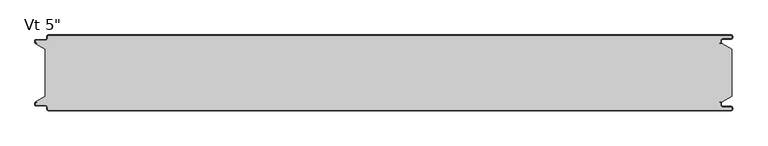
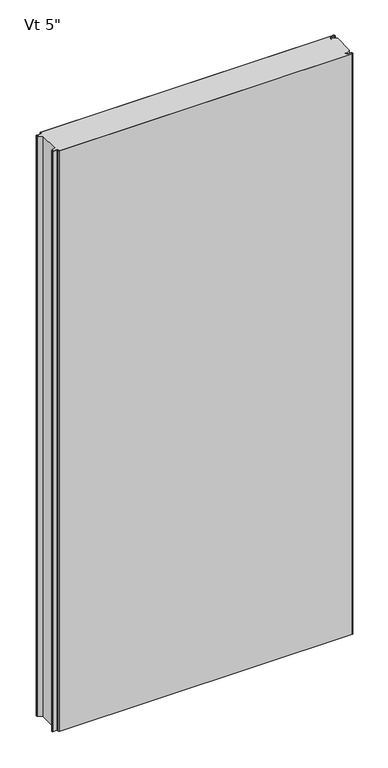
"""IFC4 building model written with IfcOpenShell, lengths in millimetres: plate geometry."""

from ifc_helpers import new_model, si_unit, frame, origin, place, context, project, spatial, polyline, circle_curve, source, transform, mapped, element, save
from ifc_brep_helpers import plane_surface, cylinder_surface, revolved_surface, advanced_brep


def plate_c1554952(model_context):
    return source(origin(), model_context, "Body", "AdvancedBrep", [
        advanced_brep(
        [(-572.4125501, -124.0227194, 2400.0), (-570.4352761, -125.9999935, 2400.0), (574.5475652, -126.0, 2400.0), (576.5248337, -124.0227315, 2400.0), (576.5248337, -122.9806329, 2400.0), (574.5475652, -121.0033643, 2400.0), (560.3591802, -121.0033643, 2400.0), (557.7713036, -118.4154878, 2400.0), (557.7713036, -114.0950697, 2400.0), (557.1628365, -113.5060762, 2400.0), (554.7857432, -113.5060762, 2400.0), (554.7857432, -112.5066023, 2400.0), (560.2280123, -112.5066023, 2400.0), (576.2625, -103.2490865, 2400.0), (576.2625, -23.7509179, 2400.0), (560.2280123, -14.4933977, 2400.0), (554.7857432, -14.4933977, 2400.0), (554.7857432, -13.4939238, 2400.0), (557.1628365, -13.4939238, 2400.0), (557.7713036, -12.9049303, 2400.0), (557.7713036, -8.5845122, 2400.0), (560.3591802, -5.9966357, 2400.0), (574.5475652, -5.9966357, 2400.0), (576.5248337, -4.0193671, 2400.0), (576.5248337, -2.9772685, 2400.0), (574.5475652, -1.0, 2400.0), (-570.4352761, -1.0, 2400.0), (-572.4125501, -2.9772806, 2400.0), (-572.4125501, -5.2691705, 2400.0), (-576.3898173, -9.2464377, 2400.0), (-591.9862417, -9.2464377, 2400.0), (-592.5741186, -9.8343146, 2400.0), (-592.5741186, -12.9058635, 2400.0), (-591.986242, -13.4937402, 2400.0), (-589.6312064, -13.4937402, 2400.0), (-589.6312064, -14.4937402, 2400.0), (-591.9207851, -14.4937402, 2400.0), (-576.2625, -23.7509135, 2400.0), (-576.2625, -103.2490865, 2400.0), (-591.9207851, -112.5062598, 2400.0), (-589.6312064, -112.5062598, 2400.0), (-589.6312064, -113.5062598, 2400.0), (-591.986242, -113.5062598, 2400.0), (-592.5741186, -114.0941365, 2400.0), (-592.5741186, -117.1656854, 2400.0), (-591.9862417, -117.7535623, 2400.0), (-576.3898173, -117.7535623, 2400.0), (-572.4125501, -121.7308295, 2400.0), (-572.4125501, -124.0227194, 0.0), (-572.4125501, -121.7308295, 0.0), (-576.3898173, -117.7535623, 0.0), (-591.9862417, -117.7535623, 0.0), (-592.5741186, -117.1656854, 0.0), (-592.5741186, -114.0941365, 0.0), (-591.986242, -113.5062598, 0.0), (-589.6312064, -113.5062598, 0.0), (-589.6312064, -112.5062598, 0.0), (-591.9207851, -112.5062598, 0.0), (-576.2625, -103.2490865, 0.0), (-576.2625, -23.7509179, 0.0), (-591.9207851, -14.4937402, 0.0), (-589.6312064, -14.4937402, 0.0), (-589.6312064, -13.4937402, 0.0), (-591.986242, -13.4937402, 0.0), (-592.5741186, -12.9058635, 0.0), (-592.5741186, -9.8343146, 0.0), (-591.9862417, -9.2464377, 0.0), (-576.3898173, -9.2464377, 0.0), (-572.4125501, -5.2691705, 0.0), (-572.4125501, -2.9772806, 0.0), (-570.4352761, -1.0000065, 0.0), (574.5475652, -1.0, 0.0), (576.5248337, -2.9772685, 0.0), (576.5248337, -4.0193671, 0.0), (574.5475652, -5.9966357, 0.0), (560.3591802, -5.9966357, 0.0), (557.7713036, -8.5845122, 0.0), (557.7713036, -12.9049303, 0.0), (557.1628365, -13.4939238, 0.0), (554.7857432, -13.4939238, 0.0), (554.7857432, -14.4933977, 0.0), (560.2280123, -14.4933977, 0.0), (576.2625, -23.7509135, 0.0), (576.2625, -103.2490865, 0.0), (560.2280123, -112.5066023, 0.0), (554.7857432, -112.5066023, 0.0), (554.7857432, -113.5060762, 0.0), (557.1628365, -113.5060762, 0.0), (557.7713036, -114.0950697, 0.0), (557.7713036, -118.4154878, 0.0), (560.3591802, -121.0033643, 0.0), (574.5475652, -121.0033643, 0.0), (576.5248337, -122.9806329, 0.0), (576.5248337, -124.0227315, 0.0), (574.5475652, -126.0, 0.0), (-570.4352761, -126.0, 0.0)],
        [
            (0, 1, circle_curve(frame((-570.4352761, -124.0227194, 2400.0), z_axis=(0.0, 0.0, 1.0), x_axis=(-1.0, 0.0, 0.0)), 1.977274)),
            (1, 2),
            (2, 3, circle_curve(frame((574.5475652, -124.0227315, 2400.0), z_axis=(0.0, 0.0, 1.0), x_axis=(-1.0, 0.0, 0.0)), 1.9772685)),
            (3, 4),
            (4, 5, circle_curve(frame((574.5475652, -122.9806329, 2400.0), z_axis=(0.0, 0.0, 1.0), x_axis=(-1.0, 0.0, 0.0)), 1.9772685)),
            (5, 6),
            (6, 7, circle_curve(frame((560.3591802, -118.4154878, 2400.0), z_axis=(0.0, 0.0, -1.0), x_axis=(-1.0, 0.0, 0.0)), 2.5878765)),
            (7, 8),
            (8, 9, circle_curve(frame((557.1819985, -114.0950697, 2400.0), z_axis=(0.0, 0.0, 1.0), x_axis=(-1.0, 0.0, 0.0)), 0.5893051)),
            (9, 10),
            (10, 11),
            (11, 12),
            (12, 13),
            (13, 14),
            (14, 15),
            (15, 16),
            (16, 17),
            (17, 18),
            (18, 19, circle_curve(frame((557.1819985, -12.9049303, 2400.0), z_axis=(0.0, 0.0, 1.0), x_axis=(0.0, 1.0, 0.0)), 0.5893051)),
            (19, 20),
            (20, 21, circle_curve(frame((560.3591802, -8.5845122, 2400.0), z_axis=(0.0, 0.0, -1.0), x_axis=(0.0, 1.0, 0.0)), 2.5878765)),
            (21, 22),
            (22, 23, circle_curve(frame((574.5475652, -4.0193671, 2400.0), z_axis=(0.0, 0.0, 1.0), x_axis=(0.0, 1.0, 0.0)), 1.9772685)),
            (23, 24),
            (24, 25, circle_curve(frame((574.5475652, -2.9772685, 2400.0), z_axis=(0.0, 0.0, 1.0), x_axis=(0.0, 1.0, 0.0)), 1.9772685)),
            (25, 26),
            (26, 27, circle_curve(frame((-570.4352761, -2.9772806, 2400.0), z_axis=(0.0, 0.0, 1.0), x_axis=(0.0, 1.0, 0.0)), 1.977274)),
            (27, 28),
            (28, 29, circle_curve(frame((-576.3898173, -5.2691705, 2400.0), z_axis=(0.0, 0.0, -1.0), x_axis=(0.0, 1.0, 0.0)), 3.9772671)),
            (29, 30),
            (30, 31, circle_curve(frame((-591.9862417, -9.8343146, 2400.0), z_axis=(0.0, 0.0, 1.0), x_axis=(0.0, 1.0, 0.0)), 0.5878769)),
            (31, 32),
            (32, 33, circle_curve(frame((-591.986242, -12.9058635, 2400.0), z_axis=(0.0, 0.0, 1.0), x_axis=(0.0, 1.0, 0.0)), 0.5878766)),
            (33, 34),
            (34, 35),
            (35, 36),
            (36, 37),
            (37, 38),
            (38, 39),
            (39, 40),
            (40, 41),
            (41, 42),
            (42, 43, circle_curve(frame((-591.986242, -114.0941365, 2400.0), z_axis=(0.0, 0.0, 1.0), x_axis=(-1.0, 0.0, 0.0)), 0.5878766)),
            (43, 44),
            (44, 45, circle_curve(frame((-591.9862417, -117.1656854, 2400.0), z_axis=(0.0, 0.0, 1.0), x_axis=(-1.0, 0.0, 0.0)), 0.5878769)),
            (45, 46),
            (46, 47, circle_curve(frame((-576.3898173, -121.7308295, 2400.0), z_axis=(0.0, 0.0, -1.0), x_axis=(-1.0, 0.0, 0.0)), 3.9772671)),
            (47, 0),
            (48, 49),
            (49, 50, circle_curve(frame((-576.3898173, -121.7308295, 0.0), z_axis=(0.0, 0.0, 1.0), x_axis=(-1.0, 0.0, 0.0)), 3.9772671)),
            (50, 51),
            (51, 52, circle_curve(frame((-591.9862417, -117.1656854, 0.0), z_axis=(0.0, 0.0, -1.0), x_axis=(-1.0, 0.0, 0.0)), 0.5878769)),
            (52, 53),
            (53, 54, circle_curve(frame((-591.986242, -114.0941365, 0.0), z_axis=(0.0, 0.0, -1.0), x_axis=(-1.0, 0.0, 0.0)), 0.5878766)),
            (54, 55),
            (55, 56),
            (56, 57),
            (57, 58),
            (58, 59),
            (59, 60),
            (60, 61),
            (61, 62),
            (62, 63),
            (63, 64, circle_curve(frame((-591.986242, -12.9058635, 0.0), z_axis=(0.0, 0.0, -1.0), x_axis=(0.0, 1.0, 0.0)), 0.5878766)),
            (64, 65),
            (65, 66, circle_curve(frame((-591.9862417, -9.8343146, 0.0), z_axis=(0.0, 0.0, -1.0), x_axis=(0.0, 1.0, 0.0)), 0.5878769)),
            (66, 67),
            (67, 68, circle_curve(frame((-576.3898173, -5.2691705, 0.0), z_axis=(0.0, 0.0, 1.0), x_axis=(0.0, 1.0, 0.0)), 3.9772671)),
            (68, 69),
            (69, 70, circle_curve(frame((-570.4352761, -2.9772806, 0.0), z_axis=(0.0, 0.0, -1.0), x_axis=(0.0, 1.0, 0.0)), 1.977274)),
            (70, 71),
            (71, 72, circle_curve(frame((574.5475652, -2.9772685, 0.0), z_axis=(0.0, 0.0, -1.0), x_axis=(0.0, 1.0, 0.0)), 1.9772685)),
            (72, 73),
            (73, 74, circle_curve(frame((574.5475652, -4.0193671, 0.0), z_axis=(0.0, 0.0, -1.0), x_axis=(0.0, 1.0, 0.0)), 1.9772685)),
            (74, 75),
            (75, 76, circle_curve(frame((560.3591802, -8.5845122, 0.0), z_axis=(0.0, 0.0, 1.0), x_axis=(0.0, 1.0, 0.0)), 2.5878765)),
            (76, 77),
            (77, 78, circle_curve(frame((557.1819985, -12.9049303, 0.0), z_axis=(0.0, 0.0, -1.0), x_axis=(0.0, 1.0, 0.0)), 0.5893051)),
            (78, 79),
            (79, 80),
            (80, 81),
            (81, 82),
            (82, 83),
            (83, 84),
            (84, 85),
            (85, 86),
            (86, 87),
            (87, 88, circle_curve(frame((557.1819985, -114.0950697, 0.0), z_axis=(0.0, 0.0, -1.0), x_axis=(-1.0, 0.0, 0.0)), 0.5893051)),
            (88, 89),
            (89, 90, circle_curve(frame((560.3591802, -118.4154878, 0.0), z_axis=(0.0, 0.0, 1.0), x_axis=(-1.0, 0.0, 0.0)), 2.5878765)),
            (90, 91),
            (91, 92, circle_curve(frame((574.5475652, -122.9806329, 0.0), z_axis=(0.0, 0.0, -1.0), x_axis=(-1.0, 0.0, 0.0)), 1.9772685)),
            (92, 93),
            (93, 94, circle_curve(frame((574.5475652, -124.0227315, 0.0), z_axis=(0.0, 0.0, -1.0), x_axis=(-1.0, 0.0, 0.0)), 1.9772685)),
            (94, 95),
            (95, 48, circle_curve(frame((-570.4352761, -124.0227194, 0.0), z_axis=(0.0, 0.0, -1.0), x_axis=(-1.0, 0.0, 0.0)), 1.977274)),
            (37, 59),
            (58, 38),
            (13, 83),
            (82, 14),
            (47, 49),
            (48, 0),
            (46, 50),
            (45, 51),
            (44, 52),
            (43, 53),
            (42, 54),
            (41, 55),
            (40, 56),
            (39, 57),
            (12, 84),
            (11, 85),
            (10, 86),
            (9, 87),
            (8, 88),
            (7, 89),
            (6, 90),
            (5, 91),
            (4, 92),
            (3, 93),
            (2, 94),
            (1, 95),
            (26, 70),
            (69, 27),
            (25, 71),
            (24, 72),
            (23, 73),
            (22, 74),
            (21, 75),
            (20, 76),
            (19, 77),
            (18, 78),
            (17, 79),
            (16, 80),
            (15, 81),
            (36, 60),
            (35, 61),
            (34, 62),
            (33, 63),
            (32, 64),
            (31, 65),
            (30, 66),
            (29, 67),
            (28, 68),
        ],
        [
            plane_surface(frame((0.0, -126.0, 2400.0), z_axis=(0.0, 0.0, 1.0), x_axis=(0.0, -1.0, 0.0))),
            plane_surface(frame((0.0, -126.0, 0.0), z_axis=(0.0, 0.0, -1.0), x_axis=(0.0, -1.0, 0.0))),
            plane_surface(frame((-576.2625, -103.2490865, 2400.0), z_axis=(-1.0, 0.0, 0.0), x_axis=(0.0, 0.0, -1.0))),
            plane_surface(frame((576.2625, -23.7509179, 2400.0), z_axis=(1.0, 0.0, 0.0), x_axis=(0.0, 0.0, -1.0))),
            plane_surface(frame((-572.4125501, -124.0227194, 2400.0), z_axis=(-1.0, 0.0, 0.0), x_axis=(0.0, 0.0, -1.0))),
            revolved_surface(polyline([(-580.3670844, -121.7308295, 0.0), (-580.3670844, -121.7308295, 2400.0)]), (-576.3898173, -121.7308295, 2400.0), (0.0, 0.0, -1.0)),
            plane_surface(frame((-576.3898173, -117.7535623, 2400.0), z_axis=(0.0, -1.0, 0.0), x_axis=(0.0, 0.0, -1.0))),
            cylinder_surface(frame((-591.9862417, -117.1656854, 2400.0), z_axis=(0.0, 0.0, 1.0), x_axis=(-1.0, 0.0, 0.0)), 0.5878769),
            plane_surface(frame((-592.5741186, -117.1656854, 2400.0), z_axis=(-1.0, 0.0, 0.0), x_axis=(0.0, 0.0, -1.0))),
            cylinder_surface(frame((-591.986242, -114.0941365, 2400.0), z_axis=(0.0, 0.0, 1.0), x_axis=(-1.0, 0.0, 0.0)), 0.5878766),
            plane_surface(frame((-591.986242, -113.5062598, 2400.0), z_axis=(0.0, 1.0, 0.0), x_axis=(0.0, 0.0, -1.0))),
            plane_surface(frame((-589.6312064, -113.5062598, 2400.0), z_axis=(-1.0, 0.0, 0.0), x_axis=(0.0, 0.0, -1.0))),
            plane_surface(frame((-589.6312064, -112.5062598, 2400.0), z_axis=(0.0, -1.0, 0.0), x_axis=(0.0, 0.0, -1.0))),
            plane_surface(frame((-591.9207851, -112.5062598, 2400.0), z_axis=(-0.5089147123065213, 0.860816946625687, 0.0), x_axis=(0.0, 0.0, -1.0))),
            plane_surface(frame((576.2625, -103.2490865, 2400.0), z_axis=(0.500000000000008, -0.866025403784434, 0.0), x_axis=(0.0, 0.0, -1.0))),
            plane_surface(frame((560.2280123, -112.5066023, 2400.0), z_axis=(0.0, -1.0, 0.0), x_axis=(0.0, 0.0, -1.0))),
            plane_surface(frame((554.7857432, -112.5066023, 2400.0), z_axis=(1.0, 0.0, 0.0), x_axis=(0.0, 0.0, -1.0))),
            plane_surface(frame((554.7857432, -113.5060762, 2400.0), z_axis=(0.0, 1.0, 0.0), x_axis=(0.0, 0.0, -1.0))),
            cylinder_surface(frame((557.1819985, -114.0950697, 2400.0), z_axis=(0.0, 0.0, 1.0), x_axis=(-1.0, 0.0, 0.0)), 0.5893051),
            plane_surface(frame((557.7713036, -114.0950697, 2400.0), z_axis=(1.0, 0.0, 0.0), x_axis=(0.0, 0.0, -1.0))),
            revolved_surface(polyline([(557.7713037, -118.4154878, 0.0), (557.7713037, -118.4154878, 2400.0)]), (560.3591802, -118.4154878, 2400.0), (0.0, 0.0, -1.0)),
            plane_surface(frame((560.3591802, -121.0033643, 2400.0), z_axis=(0.0, 1.0, 0.0), x_axis=(0.0, 0.0, -1.0))),
            cylinder_surface(frame((574.5475652, -122.9806329, 2400.0), z_axis=(0.0, 0.0, 1.0), x_axis=(-1.0, 0.0, 0.0)), 1.9772685),
            plane_surface(frame((576.5248337, -122.9806329, 2400.0), z_axis=(1.0, 0.0, 0.0), x_axis=(0.0, 0.0, -1.0))),
            cylinder_surface(frame((574.5475652, -124.0227315, 2400.0), z_axis=(0.0, 0.0, 1.0), x_axis=(-1.0, 0.0, 0.0)), 1.9772685),
            plane_surface(frame((574.5475652, -126.0, 2400.0), z_axis=(0.0, -1.0, 0.0), x_axis=(0.0, 0.0, -1.0))),
            cylinder_surface(frame((-570.4352761, -124.0227194, 2400.0), z_axis=(0.0, 0.0, 1.0), x_axis=(-1.0, 0.0, 0.0)), 1.977274),
            cylinder_surface(frame((-570.4352761, -2.9772806, 2400.0), z_axis=(0.0, 0.0, 1.0), x_axis=(0.0, 1.0, 0.0)), 1.977274),
            plane_surface(frame((-570.4352761, -1.0, 2400.0), z_axis=(0.0, 1.0, 0.0), x_axis=(0.0, 0.0, -1.0))),
            cylinder_surface(frame((574.5475652, -2.9772685, 2400.0), z_axis=(0.0, 0.0, 1.0), x_axis=(0.0, 1.0, 0.0)), 1.9772685),
            plane_surface(frame((576.5248337, -2.9772685, 2400.0), z_axis=(1.0, 0.0, 0.0), x_axis=(0.0, 0.0, -1.0))),
            cylinder_surface(frame((574.5475652, -4.0193671, 2400.0), z_axis=(0.0, 0.0, 1.0), x_axis=(0.0, 1.0, 0.0)), 1.9772685),
            plane_surface(frame((574.5475652, -5.9966357, 2400.0), z_axis=(0.0, -1.0, 0.0), x_axis=(0.0, 0.0, -1.0))),
            revolved_surface(polyline([(560.3591802, -5.996635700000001, 0.0), (560.3591802, -5.996635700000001, 2400.0)]), (560.3591802, -8.5845122, 2400.0), (0.0, 0.0, -1.0)),
            plane_surface(frame((557.7713036, -8.5845122, 2400.0), z_axis=(1.0, 0.0, 0.0), x_axis=(0.0, 0.0, -1.0))),
            cylinder_surface(frame((557.1819985, -12.9049303, 2400.0), z_axis=(0.0, 0.0, 1.0), x_axis=(0.0, 1.0, 0.0)), 0.5893051),
            plane_surface(frame((557.1628365, -13.4939238, 2400.0), z_axis=(0.0, -1.0, 0.0), x_axis=(0.0, 0.0, -1.0))),
            plane_surface(frame((554.7857432, -13.4939238, 2400.0), z_axis=(1.0, 0.0, 0.0), x_axis=(0.0, 0.0, -1.0))),
            plane_surface(frame((554.7857432, -14.4933977, 2400.0), z_axis=(0.0, 1.0, 0.0), x_axis=(0.0, 0.0, -1.0))),
            plane_surface(frame((560.2280123, -14.4933977, 2400.0), z_axis=(0.5000000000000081, 0.866025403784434, 0.0), x_axis=(0.0, 0.0, -1.0))),
            plane_surface(frame((-576.2625, -23.7509135, 2400.0), z_axis=(-0.5089147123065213, -0.860816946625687, 0.0), x_axis=(0.0, 0.0, -1.0))),
            plane_surface(frame((-591.9207851, -14.4937402, 2400.0), z_axis=(0.0, 1.0, 0.0), x_axis=(0.0, 0.0, -1.0))),
            plane_surface(frame((-589.6312064, -14.4937402, 2400.0), z_axis=(-1.0, 0.0, 0.0), x_axis=(0.0, 0.0, -1.0))),
            plane_surface(frame((-589.6312064, -13.4937402, 2400.0), z_axis=(0.0, -1.0, 0.0), x_axis=(0.0, 0.0, -1.0))),
            cylinder_surface(frame((-591.986242, -12.9058635, 2400.0), z_axis=(0.0, 0.0, 1.0), x_axis=(0.0, 1.0, 0.0)), 0.5878766),
            plane_surface(frame((-592.5741186, -12.9058635, 2400.0), z_axis=(-1.0, 0.0, 0.0), x_axis=(0.0, 0.0, -1.0))),
            cylinder_surface(frame((-591.9862417, -9.8343146, 2400.0), z_axis=(0.0, 0.0, 1.0), x_axis=(0.0, 1.0, 0.0)), 0.5878769),
            plane_surface(frame((-591.9862417, -9.2464377, 2400.0), z_axis=(0.0, 1.0, 0.0), x_axis=(0.0, 0.0, -1.0))),
            revolved_surface(polyline([(-576.3898173, -1.2919034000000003, 0.0), (-576.3898173, -1.2919034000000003, 2400.0)]), (-576.3898173, -5.2691705, 2400.0), (0.0, 0.0, -1.0)),
            plane_surface(frame((-572.4125501, -5.2691705, 2400.0), z_axis=(-1.0, 0.0, 0.0), x_axis=(0.0, 0.0, -1.0))),
        ],
        [
            (0, [[1, 2, 3, 4, 5, 6, 7, 8, 9, 10, 11, 12, 13, 14, 15, 16, 17, 18, 19, 20, 21, 22, 23, 24, 25, 26, 27, 28, 29, 30, 31, 32, 33, 34, 35, 36, 37, 38, 39, 40, 41, 42, 43, 44, 45, 46, 47, 48]]),
            (1, [[49, 50, 51, 52, 53, 54, 55, 56, 57, 58, 59, 60, 61, 62, 63, 64, 65, 66, 67, 68, 69, 70, 71, 72, 73, 74, 75, 76, 77, 78, 79, 80, 81, 82, 83, 84, 85, 86, 87, 88, 89, 90, 91, 92, 93, 94, 95, 96]]),
            (2, [[97, -59, 98, -38]]),
            (3, [[99, -83, 100, -14]]),
            (4, [[101, -49, 102, -48]]),
            (5, [[103, -50, -101, -47]]),
            (6, [[104, -51, -103, -46]]),
            (7, [[105, -52, -104, -45]]),
            (8, [[106, -53, -105, -44]]),
            (9, [[107, -54, -106, -43]]),
            (10, [[108, -55, -107, -42]]),
            (11, [[109, -56, -108, -41]]),
            (12, [[110, -57, -109, -40]]),
            (13, [[-98, -58, -110, -39]]),
            (14, [[111, -84, -99, -13]]),
            (15, [[112, -85, -111, -12]]),
            (16, [[113, -86, -112, -11]]),
            (17, [[114, -87, -113, -10]]),
            (18, [[115, -88, -114, -9]]),
            (19, [[116, -89, -115, -8]]),
            (20, [[117, -90, -116, -7]]),
            (21, [[118, -91, -117, -6]]),
            (22, [[119, -92, -118, -5]]),
            (23, [[120, -93, -119, -4]]),
            (24, [[121, -94, -120, -3]]),
            (25, [[122, -95, -121, -2]]),
            (26, [[-102, -96, -122, -1]]),
            (27, [[123, -70, 124, -27]]),
            (28, [[125, -71, -123, -26]]),
            (29, [[126, -72, -125, -25]]),
            (30, [[127, -73, -126, -24]]),
            (31, [[128, -74, -127, -23]]),
            (32, [[129, -75, -128, -22]]),
            (33, [[130, -76, -129, -21]]),
            (34, [[131, -77, -130, -20]]),
            (35, [[132, -78, -131, -19]]),
            (36, [[133, -79, -132, -18]]),
            (37, [[134, -80, -133, -17]]),
            (38, [[135, -81, -134, -16]]),
            (39, [[-100, -82, -135, -15]]),
            (40, [[136, -60, -97, -37]]),
            (41, [[137, -61, -136, -36]]),
            (42, [[138, -62, -137, -35]]),
            (43, [[139, -63, -138, -34]]),
            (44, [[140, -64, -139, -33]]),
            (45, [[141, -65, -140, -32]]),
            (46, [[142, -66, -141, -31]]),
            (47, [[143, -67, -142, -30]]),
            (48, [[144, -68, -143, -29]]),
            (49, [[-124, -69, -144, -28]]),
        ],
    ),
        advanced_brep(
        [(-572.4123937, -2.9776189, 2400.0), (-570.4354837, -1.0007088, 2400.0), (574.550337, -1.0007088, 2400.0), (576.5262182, -2.97659, 2400.0), (576.5262182, -4.019022, 2400.0), (574.5482568, -5.9969834, 2400.0), (560.3590971, -5.9969834, 2400.0), (557.7713971, -8.5846834, 2400.0), (557.7713971, -12.9049158, 2400.0), (557.1628599, -13.4939528, 2400.0), (554.7857432, -13.4939528, 2400.0), (554.7857432, -14.4933977, 2400.0), (557.1304042, -14.4933977, 2400.0), (558.7713036, -12.9049303, 2400.0), (558.7713036, -8.5845122, 2400.0), (560.3591801, -6.9966356, 2400.0), (574.5475652, -6.9966356, 2400.0), (577.5248337, -4.0193671, 2400.0), (577.5248337, -2.9772685, 2400.0), (574.5475652, 0.0, 2400.0), (-570.4352789, 0.0, 2400.0), (-573.4125474, -2.977286, 2400.0), (-573.4125474, -5.2691698, 2400.0), (-576.3898159, -8.2464384, 2400.0), (-591.9862419, -8.2464384, 2400.0), (-593.5741185, -9.8343149, 2400.0), (-593.5741185, -12.9058636, 2400.0), (-591.9862419, -14.4937401, 2400.0), (-589.6312064, -14.4937401, 2400.0), (-589.6312064, -13.4937365, 2400.0), (-591.9862374, -13.4937365, 2400.0), (-592.5741086, -12.9058654, 2400.0), (-592.5741086, -9.834334, 2400.0), (-591.9862514, -9.2464768, 2400.0), (-576.3897391, -9.2464768, 2400.0), (-572.4123937, -5.2691315, 2400.0), (-572.4123937, -2.9776189, 0.0), (-572.4123937, -5.2691315, 0.0), (-576.3897391, -9.2464768, 0.0), (-591.9862514, -9.2464768, 0.0), (-592.5741086, -9.834334, 0.0), (-592.5741086, -12.9058654, 0.0), (-591.9862374, -13.4937365, 0.0), (-589.6312064, -13.4937365, 0.0), (-589.6312064, -14.4937401, 0.0), (-591.9862419, -14.4937401, 0.0), (-593.5741185, -12.9058636, 0.0), (-593.5741185, -9.8343149, 0.0), (-591.9862419, -8.2464384, 0.0), (-576.3898159, -8.2464384, 0.0), (-573.4125474, -5.2691698, 0.0), (-573.4125474, -2.977286, 0.0), (-570.4352789, -1.75e-05, 0.0), (574.5475652, 0.0, 0.0), (577.5248337, -2.9772685, 0.0), (577.5248337, -4.0193671, 0.0), (574.5475652, -6.9966356, 0.0), (560.3591801, -6.9966356, 0.0), (558.7713036, -8.5845122, 0.0), (558.7713036, -12.9049303, 0.0), (557.1304042, -14.4933977, 0.0), (554.7857432, -14.4933977, 0.0), (554.7857432, -13.4939528, 0.0), (557.1628599, -13.4939528, 0.0), (557.7713971, -12.9049158, 0.0), (557.7713971, -8.5846834, 0.0), (560.3590971, -5.9969834, 0.0), (574.5482568, -5.9969834, 0.0), (576.5262182, -4.019022, 0.0), (576.5262182, -2.97659, 0.0), (574.550337, -1.0007088, 0.0), (-570.4354837, -1.0007088, 0.0)],
        [
            (0, 1, circle_curve(frame((-570.4354837, -2.9776189, 2400.0), z_axis=(0.0, 0.0, -1.0), x_axis=(0.0, 1.0, 0.0)), 1.9769101)),
            (1, 2),
            (2, 3, circle_curve(frame((574.550337, -2.97659, 2400.0), z_axis=(0.0, 0.0, -1.0), x_axis=(0.0, 1.0, 0.0)), 1.9758812)),
            (3, 4),
            (4, 5, circle_curve(frame((574.5482568, -4.019022, 2400.0), z_axis=(0.0, 0.0, -1.0), x_axis=(0.0, 1.0, 0.0)), 1.9779614)),
            (5, 6),
            (6, 7, circle_curve(frame((560.3590971, -8.5846834, 2400.0), z_axis=(0.0, 0.0, 1.0), x_axis=(0.0, 1.0, 0.0)), 2.5877)),
            (7, 8),
            (8, 9, circle_curve(frame((557.1820477, -12.9049158, 2400.0), z_axis=(0.0, 0.0, -1.0), x_axis=(0.0, 1.0, 0.0)), 0.5893495)),
            (9, 10),
            (10, 11),
            (11, 12),
            (12, 13, circle_curve(frame((557.1819985, -12.9049303, 2400.0), z_axis=(0.0, 0.0, 1.0), x_axis=(0.0, 1.0, 0.0)), 1.5893051)),
            (13, 14),
            (14, 15, circle_curve(frame((560.3591801, -8.5845122, 2400.0), z_axis=(0.0, 0.0, -1.0), x_axis=(0.0, 1.0, 0.0)), 1.5878765)),
            (15, 16),
            (16, 17, circle_curve(frame((574.5475652, -4.0193671, 2400.0), z_axis=(0.0, 0.0, 1.0), x_axis=(0.0, 1.0, 0.0)), 2.9772685)),
            (17, 18),
            (18, 19, circle_curve(frame((574.5475652, -2.9772685, 2400.0), z_axis=(0.0, 0.0, 1.0), x_axis=(0.0, 1.0, 0.0)), 2.9772685)),
            (19, 20),
            (20, 21, circle_curve(frame((-570.4352789, -2.977286, 2400.0), z_axis=(0.0, 0.0, 1.0), x_axis=(0.0, 1.0, 0.0)), 2.9772685)),
            (21, 22),
            (22, 23, circle_curve(frame((-576.3898159, -5.2691698, 2400.0), z_axis=(0.0, 0.0, -1.0), x_axis=(0.0, 1.0, 0.0)), 2.9772685)),
            (23, 24),
            (24, 25, circle_curve(frame((-591.9862419, -9.8343149, 2400.0), z_axis=(0.0, 0.0, 1.0), x_axis=(0.0, 1.0, 0.0)), 1.5878765)),
            (25, 26),
            (26, 27, circle_curve(frame((-591.9862419, -12.9058636, 2400.0), z_axis=(0.0, 0.0, 1.0), x_axis=(0.0, 1.0, 0.0)), 1.5878765)),
            (27, 28),
            (28, 29),
            (29, 30),
            (30, 31, circle_curve(frame((-591.9862374, -12.9058654, 2400.0), z_axis=(0.0, 0.0, -1.0), x_axis=(0.0, 1.0, 0.0)), 0.5878711)),
            (31, 32),
            (32, 33, circle_curve(frame((-591.9862514, -9.834334, 2400.0), z_axis=(0.0, 0.0, -1.0), x_axis=(0.0, 1.0, 0.0)), 0.5878572)),
            (33, 34),
            (34, 35, circle_curve(frame((-576.3897391, -5.2691315, 2400.0), z_axis=(0.0, 0.0, 1.0), x_axis=(0.0, 1.0, 0.0)), 3.9773454)),
            (35, 0),
            (36, 37),
            (37, 38, circle_curve(frame((-576.3897391, -5.2691315, 0.0), z_axis=(0.0, 0.0, -1.0), x_axis=(0.0, 1.0, 0.0)), 3.9773454)),
            (38, 39),
            (39, 40, circle_curve(frame((-591.9862514, -9.834334, 0.0), z_axis=(0.0, 0.0, 1.0), x_axis=(0.0, 1.0, 0.0)), 0.5878572)),
            (40, 41),
            (41, 42, circle_curve(frame((-591.9862374, -12.9058654, 0.0), z_axis=(0.0, 0.0, 1.0), x_axis=(0.0, 1.0, 0.0)), 0.5878711)),
            (42, 43),
            (43, 44),
            (44, 45),
            (45, 46, circle_curve(frame((-591.9862419, -12.9058636, 0.0), z_axis=(0.0, 0.0, -1.0), x_axis=(0.0, 1.0, 0.0)), 1.5878765)),
            (46, 47),
            (47, 48, circle_curve(frame((-591.9862419, -9.8343149, 0.0), z_axis=(0.0, 0.0, -1.0), x_axis=(0.0, 1.0, 0.0)), 1.5878765)),
            (48, 49),
            (49, 50, circle_curve(frame((-576.3898159, -5.2691698, 0.0), z_axis=(0.0, 0.0, 1.0), x_axis=(0.0, 1.0, 0.0)), 2.9772685)),
            (50, 51),
            (51, 52, circle_curve(frame((-570.4352789, -2.977286, 0.0), z_axis=(0.0, 0.0, -1.0), x_axis=(0.0, 1.0, 0.0)), 2.9772685)),
            (52, 53),
            (53, 54, circle_curve(frame((574.5475652, -2.9772685, 0.0), z_axis=(0.0, 0.0, -1.0), x_axis=(0.0, 1.0, 0.0)), 2.9772685)),
            (54, 55),
            (55, 56, circle_curve(frame((574.5475652, -4.0193671, 0.0), z_axis=(0.0, 0.0, -1.0), x_axis=(0.0, 1.0, 0.0)), 2.9772685)),
            (56, 57),
            (57, 58, circle_curve(frame((560.3591801, -8.5845122, 0.0), z_axis=(0.0, 0.0, 1.0), x_axis=(0.0, 1.0, 0.0)), 1.5878765)),
            (58, 59),
            (59, 60, circle_curve(frame((557.1819985, -12.9049303, 0.0), z_axis=(0.0, 0.0, -1.0), x_axis=(0.0, 1.0, 0.0)), 1.5893051)),
            (60, 61),
            (61, 62),
            (62, 63),
            (63, 64, circle_curve(frame((557.1820477, -12.9049158, 0.0), z_axis=(0.0, 0.0, 1.0), x_axis=(0.0, 1.0, 0.0)), 0.5893495)),
            (64, 65),
            (65, 66, circle_curve(frame((560.3590971, -8.5846834, 0.0), z_axis=(0.0, 0.0, -1.0), x_axis=(0.0, 1.0, 0.0)), 2.5877)),
            (66, 67),
            (67, 68, circle_curve(frame((574.5482568, -4.019022, 0.0), z_axis=(0.0, 0.0, 1.0), x_axis=(0.0, 1.0, 0.0)), 1.9779614)),
            (68, 69),
            (69, 70, circle_curve(frame((574.550337, -2.97659, 0.0), z_axis=(0.0, 0.0, 1.0), x_axis=(0.0, 1.0, 0.0)), 1.9758812)),
            (70, 71),
            (71, 36, circle_curve(frame((-570.4354837, -2.9776189, 0.0), z_axis=(0.0, 0.0, 1.0), x_axis=(0.0, 1.0, 0.0)), 1.9769101)),
            (35, 37),
            (36, 0),
            (34, 38),
            (33, 39),
            (32, 40),
            (31, 41),
            (30, 42),
            (29, 43),
            (28, 44),
            (27, 45),
            (26, 46),
            (25, 47),
            (24, 48),
            (23, 49),
            (22, 50),
            (21, 51),
            (20, 52),
            (19, 53),
            (18, 54),
            (17, 55),
            (16, 56),
            (15, 57),
            (14, 58),
            (13, 59),
            (12, 60),
            (11, 61),
            (10, 62),
            (9, 63),
            (8, 64),
            (7, 65),
            (6, 66),
            (5, 67),
            (4, 68),
            (3, 69),
            (2, 70),
            (1, 71),
        ],
        [
            plane_surface(frame((0.0, 0.0, 2400.0), z_axis=(0.0, 0.0, 1.0), x_axis=(0.0, 1.0, 0.0))),
            plane_surface(frame((0.0, 0.0, 0.0), z_axis=(0.0, 0.0, -1.0), x_axis=(0.0, 1.0, 0.0))),
            plane_surface(frame((-572.4123937, -2.9776189, 2400.0), z_axis=(1.0, 0.0, 0.0), x_axis=(0.0, 0.0, -1.0))),
            cylinder_surface(frame((-576.3897391, -5.2691315, 2400.0), z_axis=(0.0, 0.0, 1.0), x_axis=(0.0, 1.0, 0.0)), 3.9773454),
            plane_surface(frame((-576.3897391, -9.2464768, 2400.0), z_axis=(0.0, -1.0, 0.0), x_axis=(0.0, 0.0, -1.0))),
            revolved_surface(polyline([(-591.9862514, -9.2464768, 0.0), (-591.9862514, -9.2464768, 2400.0)]), (-591.9862514, -9.834334, 2400.0), (0.0, 0.0, -1.0)),
            plane_surface(frame((-592.5741086, -9.834334, 2400.0), z_axis=(1.0, 0.0, 0.0), x_axis=(0.0, 0.0, -1.0))),
            revolved_surface(polyline([(-591.9862374, -12.3179943, 0.0), (-591.9862374, -12.3179943, 2400.0)]), (-591.9862374, -12.9058654, 2400.0), (0.0, 0.0, -1.0)),
            plane_surface(frame((-591.9862374, -13.4937365, 2400.0), z_axis=(0.0, 1.0, 0.0), x_axis=(0.0, 0.0, -1.0))),
            plane_surface(frame((-589.6312064, -13.4937365, 2400.0), z_axis=(1.0, 0.0, 0.0), x_axis=(0.0, 0.0, -1.0))),
            plane_surface(frame((-589.6312064, -14.4937401, 2400.0), z_axis=(0.0, -1.0, 0.0), x_axis=(0.0, 0.0, -1.0))),
            cylinder_surface(frame((-591.9862419, -12.9058636, 2400.0), z_axis=(0.0, 0.0, 1.0), x_axis=(0.0, 1.0, 0.0)), 1.5878765),
            plane_surface(frame((-593.5741185, -12.9058636, 2400.0), z_axis=(-1.0, 0.0, 0.0), x_axis=(0.0, 0.0, -1.0))),
            cylinder_surface(frame((-591.9862419, -9.8343149, 2400.0), z_axis=(0.0, 0.0, 1.0), x_axis=(0.0, 1.0, 0.0)), 1.5878765),
            plane_surface(frame((-591.9862419, -8.2464384, 2400.0), z_axis=(0.0, 1.0, 0.0), x_axis=(0.0, 0.0, -1.0))),
            revolved_surface(polyline([(-576.3898159, -2.2919013, 0.0), (-576.3898159, -2.2919013, 2400.0)]), (-576.3898159, -5.2691698, 2400.0), (0.0, 0.0, -1.0)),
            plane_surface(frame((-573.4125474, -5.2691698, 2400.0), z_axis=(-1.0, 0.0, 0.0), x_axis=(0.0, 0.0, -1.0))),
            cylinder_surface(frame((-570.4352789, -2.977286, 2400.0), z_axis=(0.0, 0.0, 1.0), x_axis=(0.0, 1.0, 0.0)), 2.9772685),
            plane_surface(frame((-570.4352789, 0.0, 2400.0), z_axis=(0.0, 1.0, 0.0), x_axis=(0.0, 0.0, -1.0))),
            cylinder_surface(frame((574.5475652, -2.9772685, 2400.0), z_axis=(0.0, 0.0, 1.0), x_axis=(0.0, 1.0, 0.0)), 2.9772685),
            plane_surface(frame((577.5248337, -2.9772685, 2400.0), z_axis=(1.0, 0.0, 0.0), x_axis=(0.0, 0.0, -1.0))),
            cylinder_surface(frame((574.5475652, -4.0193671, 2400.0), z_axis=(0.0, 0.0, 1.0), x_axis=(0.0, 1.0, 0.0)), 2.9772685),
            plane_surface(frame((574.5475652, -6.9966356, 2400.0), z_axis=(0.0, -1.0, 0.0), x_axis=(0.0, 0.0, -1.0))),
            revolved_surface(polyline([(560.3591801, -6.996635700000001, 0.0), (560.3591801, -6.996635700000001, 2400.0)]), (560.3591801, -8.5845122, 2400.0), (0.0, 0.0, -1.0)),
            plane_surface(frame((558.7713036, -8.5845122, 2400.0), z_axis=(1.0, 0.0, 0.0), x_axis=(0.0, 0.0, -1.0))),
            cylinder_surface(frame((557.1819985, -12.9049303, 2400.0), z_axis=(0.0, 0.0, 1.0), x_axis=(0.0, 1.0, 0.0)), 1.5893051),
            plane_surface(frame((557.1304042, -14.4933977, 2400.0), z_axis=(0.0, -1.0, 0.0), x_axis=(0.0, 0.0, -1.0))),
            plane_surface(frame((554.7857432, -14.4933977, 2400.0), z_axis=(-1.0, 0.0, 0.0), x_axis=(0.0, 0.0, -1.0))),
            plane_surface(frame((554.7857432, -13.4939528, 2400.0), z_axis=(0.0, 1.0, 0.0), x_axis=(0.0, 0.0, -1.0))),
            revolved_surface(polyline([(557.1820477, -12.3155663, 0.0), (557.1820477, -12.3155663, 2400.0)]), (557.1820477, -12.9049158, 2400.0), (0.0, 0.0, -1.0)),
            plane_surface(frame((557.7713971, -12.9049158, 2400.0), z_axis=(-1.0, 0.0, 0.0), x_axis=(0.0, 0.0, -1.0))),
            cylinder_surface(frame((560.3590971, -8.5846834, 2400.0), z_axis=(0.0, 0.0, 1.0), x_axis=(0.0, 1.0, 0.0)), 2.5877),
            plane_surface(frame((560.3590971, -5.9969834, 2400.0), z_axis=(0.0, 1.0, 0.0), x_axis=(0.0, 0.0, -1.0))),
            revolved_surface(polyline([(574.5482568, -2.0410606, 0.0), (574.5482568, -2.0410606, 2400.0)]), (574.5482568, -4.019022, 2400.0), (0.0, 0.0, -1.0)),
            plane_surface(frame((576.5262182, -4.019022, 2400.0), z_axis=(-1.0, 0.0, 0.0), x_axis=(0.0, 0.0, -1.0))),
            revolved_surface(polyline([(574.550337, -1.0007088, 0.0), (574.550337, -1.0007088, 2400.0)]), (574.550337, -2.97659, 2400.0), (0.0, 0.0, -1.0)),
            plane_surface(frame((574.550337, -1.0007088, 2400.0), z_axis=(0.0, -1.0, 0.0), x_axis=(0.0, 0.0, -1.0))),
            revolved_surface(polyline([(-570.4354837, -1.0007088, 0.0), (-570.4354837, -1.0007088, 2400.0)]), (-570.4354837, -2.9776189, 2400.0), (0.0, 0.0, -1.0)),
        ],
        [
            (0, [[1, 2, 3, 4, 5, 6, 7, 8, 9, 10, 11, 12, 13, 14, 15, 16, 17, 18, 19, 20, 21, 22, 23, 24, 25, 26, 27, 28, 29, 30, 31, 32, 33, 34, 35, 36]]),
            (1, [[37, 38, 39, 40, 41, 42, 43, 44, 45, 46, 47, 48, 49, 50, 51, 52, 53, 54, 55, 56, 57, 58, 59, 60, 61, 62, 63, 64, 65, 66, 67, 68, 69, 70, 71, 72]]),
            (2, [[73, -37, 74, -36]]),
            (3, [[75, -38, -73, -35]]),
            (4, [[76, -39, -75, -34]]),
            (5, [[77, -40, -76, -33]]),
            (6, [[78, -41, -77, -32]]),
            (7, [[79, -42, -78, -31]]),
            (8, [[80, -43, -79, -30]]),
            (9, [[81, -44, -80, -29]]),
            (10, [[82, -45, -81, -28]]),
            (11, [[83, -46, -82, -27]]),
            (12, [[84, -47, -83, -26]]),
            (13, [[85, -48, -84, -25]]),
            (14, [[86, -49, -85, -24]]),
            (15, [[87, -50, -86, -23]]),
            (16, [[88, -51, -87, -22]]),
            (17, [[89, -52, -88, -21]]),
            (18, [[90, -53, -89, -20]]),
            (19, [[91, -54, -90, -19]]),
            (20, [[92, -55, -91, -18]]),
            (21, [[93, -56, -92, -17]]),
            (22, [[94, -57, -93, -16]]),
            (23, [[95, -58, -94, -15]]),
            (24, [[96, -59, -95, -14]]),
            (25, [[97, -60, -96, -13]]),
            (26, [[98, -61, -97, -12]]),
            (27, [[99, -62, -98, -11]]),
            (28, [[100, -63, -99, -10]]),
            (29, [[101, -64, -100, -9]]),
            (30, [[102, -65, -101, -8]]),
            (31, [[103, -66, -102, -7]]),
            (32, [[104, -67, -103, -6]]),
            (33, [[105, -68, -104, -5]]),
            (34, [[106, -69, -105, -4]]),
            (35, [[107, -70, -106, -3]]),
            (36, [[108, -71, -107, -2]]),
            (37, [[-74, -72, -108, -1]]),
        ],
    ),
        advanced_brep(
        [(-572.4123937, -124.0223811, 2400.0), (-572.4123937, -121.7308685, 2400.0), (-576.3897391, -117.7535232, 2400.0), (-591.9862514, -117.7535232, 2400.0), (-592.5741086, -117.165666, 2400.0), (-592.5741086, -114.0941346, 2400.0), (-591.9862374, -113.5062635, 2400.0), (-589.6312064, -113.5062635, 2400.0), (-589.6312064, -112.5062599, 2400.0), (-591.9862419, -112.5062599, 2400.0), (-593.5741185, -114.0941364, 2400.0), (-593.5741185, -117.1656851, 2400.0), (-591.9862419, -118.7535616, 2400.0), (-576.3898159, -118.7535616, 2400.0), (-573.4125474, -121.7308302, 2400.0), (-573.4125474, -124.022714, 2400.0), (-570.4352789, -126.9999825, 2400.0), (574.5475652, -127.0, 2400.0), (577.5248337, -124.0227315, 2400.0), (577.5248337, -122.9806329, 2400.0), (574.5475652, -120.0033644, 2400.0), (560.3591801, -120.0033644, 2400.0), (558.7713036, -118.4154878, 2400.0), (558.7713036, -114.0950697, 2400.0), (557.1304042, -112.5066023, 2400.0), (554.7857432, -112.5066023, 2400.0), (554.7857432, -113.5060472, 2400.0), (557.1628599, -113.5060472, 2400.0), (557.7713971, -114.0950842, 2400.0), (557.7713971, -118.4153166, 2400.0), (560.3590971, -121.0030166, 2400.0), (574.5482568, -121.0030166, 2400.0), (576.5262182, -122.980978, 2400.0), (576.5262182, -124.02341, 2400.0), (574.550337, -125.9992912, 2400.0), (-570.4354837, -125.9992912, 2400.0), (-572.4123937, -124.0223811, 0.0), (-570.4354837, -125.9992912, 0.0), (574.550337, -125.9992912, 0.0), (576.5262182, -124.02341, 0.0), (576.5262182, -122.980978, 0.0), (574.5482568, -121.0030166, 0.0), (560.3590971, -121.0030166, 0.0), (557.7713971, -118.4153166, 0.0), (557.7713971, -114.0950842, 0.0), (557.1628599, -113.5060472, 0.0), (554.7857432, -113.5060472, 0.0), (554.7857432, -112.5066023, 0.0), (557.1304042, -112.5066023, 0.0), (558.7713036, -114.0950697, 0.0), (558.7713036, -118.4154878, 0.0), (560.3591801, -120.0033644, 0.0), (574.5475652, -120.0033644, 0.0), (577.5248337, -122.9806329, 0.0), (577.5248337, -124.0227315, 0.0), (574.5475652, -127.0, 0.0), (-570.4352789, -127.0, 0.0), (-573.4125474, -124.022714, 0.0), (-573.4125474, -121.7308302, 0.0), (-576.3898159, -118.7535616, 0.0), (-591.9862419, -118.7535616, 0.0), (-593.5741185, -117.1656851, 0.0), (-593.5741185, -114.0941364, 0.0), (-591.9862419, -112.5062599, 0.0), (-589.6312064, -112.5062599, 0.0), (-589.6312064, -113.5062635, 0.0), (-591.9862374, -113.5062635, 0.0), (-592.5741086, -114.0941346, 0.0), (-592.5741086, -117.165666, 0.0), (-591.9862514, -117.7535232, 0.0), (-576.3897391, -117.7535232, 0.0), (-572.4123937, -121.7308685, 0.0)],
        [
            (0, 1),
            (1, 2, circle_curve(frame((-576.3897391, -121.7308685, 2400.0), z_axis=(0.0, 0.0, 1.0), x_axis=(-1.0, 0.0, 0.0)), 3.9773454)),
            (2, 3),
            (3, 4, circle_curve(frame((-591.9862514, -117.165666, 2400.0), z_axis=(0.0, 0.0, -1.0), x_axis=(-1.0, 0.0, 0.0)), 0.5878572)),
            (4, 5),
            (5, 6, circle_curve(frame((-591.9862374, -114.0941346, 2400.0), z_axis=(0.0, 0.0, -1.0), x_axis=(-1.0, 0.0, 0.0)), 0.5878711)),
            (6, 7),
            (7, 8),
            (8, 9),
            (9, 10, circle_curve(frame((-591.9862419, -114.0941364, 2400.0), z_axis=(0.0, 0.0, 1.0), x_axis=(-1.0, 0.0, 0.0)), 1.5878765)),
            (10, 11),
            (11, 12, circle_curve(frame((-591.9862419, -117.1656851, 2400.0), z_axis=(0.0, 0.0, 1.0), x_axis=(-1.0, 0.0, 0.0)), 1.5878765)),
            (12, 13),
            (13, 14, circle_curve(frame((-576.3898159, -121.7308302, 2400.0), z_axis=(0.0, 0.0, -1.0), x_axis=(-1.0, 0.0, 0.0)), 2.9772685)),
            (14, 15),
            (15, 16, circle_curve(frame((-570.4352789, -124.022714, 2400.0), z_axis=(0.0, 0.0, 1.0), x_axis=(-1.0, 0.0, 0.0)), 2.9772685)),
            (16, 17),
            (17, 18, circle_curve(frame((574.5475652, -124.0227315, 2400.0), z_axis=(0.0, 0.0, 1.0), x_axis=(-1.0, 0.0, 0.0)), 2.9772685)),
            (18, 19),
            (19, 20, circle_curve(frame((574.5475652, -122.9806329, 2400.0), z_axis=(0.0, 0.0, 1.0), x_axis=(-1.0, 0.0, 0.0)), 2.9772685)),
            (20, 21),
            (21, 22, circle_curve(frame((560.3591801, -118.4154878, 2400.0), z_axis=(0.0, 0.0, -1.0), x_axis=(-1.0, 0.0, 0.0)), 1.5878765)),
            (22, 23),
            (23, 24, circle_curve(frame((557.1819985, -114.0950697, 2400.0), z_axis=(0.0, 0.0, 1.0), x_axis=(-1.0, 0.0, 0.0)), 1.5893051)),
            (24, 25),
            (25, 26),
            (26, 27),
            (27, 28, circle_curve(frame((557.1820477, -114.0950842, 2400.0), z_axis=(0.0, 0.0, -1.0), x_axis=(-1.0, 0.0, 0.0)), 0.5893495)),
            (28, 29),
            (29, 30, circle_curve(frame((560.3590971, -118.4153166, 2400.0), z_axis=(0.0, 0.0, 1.0), x_axis=(-1.0, 0.0, 0.0)), 2.5877)),
            (30, 31),
            (31, 32, circle_curve(frame((574.5482568, -122.980978, 2400.0), z_axis=(0.0, 0.0, -1.0), x_axis=(-1.0, 0.0, 0.0)), 1.9779614)),
            (32, 33),
            (33, 34, circle_curve(frame((574.550337, -124.02341, 2400.0), z_axis=(0.0, 0.0, -1.0), x_axis=(-1.0, 0.0, 0.0)), 1.9758812)),
            (34, 35),
            (35, 0, circle_curve(frame((-570.4354837, -124.0223811, 2400.0), z_axis=(0.0, 0.0, -1.0), x_axis=(-1.0, 0.0, 0.0)), 1.9769101)),
            (36, 37, circle_curve(frame((-570.4354837, -124.0223811, 0.0), z_axis=(0.0, 0.0, 1.0), x_axis=(-1.0, 0.0, 0.0)), 1.9769101)),
            (37, 38),
            (38, 39, circle_curve(frame((574.550337, -124.02341, 0.0), z_axis=(0.0, 0.0, 1.0), x_axis=(-1.0, 0.0, 0.0)), 1.9758812)),
            (39, 40),
            (40, 41, circle_curve(frame((574.5482568, -122.980978, 0.0), z_axis=(0.0, 0.0, 1.0), x_axis=(-1.0, 0.0, 0.0)), 1.9779614)),
            (41, 42),
            (42, 43, circle_curve(frame((560.3590971, -118.4153166, 0.0), z_axis=(0.0, 0.0, -1.0), x_axis=(-1.0, 0.0, 0.0)), 2.5877)),
            (43, 44),
            (44, 45, circle_curve(frame((557.1820477, -114.0950842, 0.0), z_axis=(0.0, 0.0, 1.0), x_axis=(-1.0, 0.0, 0.0)), 0.5893495)),
            (45, 46),
            (46, 47),
            (47, 48),
            (48, 49, circle_curve(frame((557.1819985, -114.0950697, 0.0), z_axis=(0.0, 0.0, -1.0), x_axis=(-1.0, 0.0, 0.0)), 1.5893051)),
            (49, 50),
            (50, 51, circle_curve(frame((560.3591801, -118.4154878, 0.0), z_axis=(0.0, 0.0, 1.0), x_axis=(-1.0, 0.0, 0.0)), 1.5878765)),
            (51, 52),
            (52, 53, circle_curve(frame((574.5475652, -122.9806329, 0.0), z_axis=(0.0, 0.0, -1.0), x_axis=(-1.0, 0.0, 0.0)), 2.9772685)),
            (53, 54),
            (54, 55, circle_curve(frame((574.5475652, -124.0227315, 0.0), z_axis=(0.0, 0.0, -1.0), x_axis=(-1.0, 0.0, 0.0)), 2.9772685)),
            (55, 56),
            (56, 57, circle_curve(frame((-570.4352789, -124.022714, 0.0), z_axis=(0.0, 0.0, -1.0), x_axis=(-1.0, 0.0, 0.0)), 2.9772685)),
            (57, 58),
            (58, 59, circle_curve(frame((-576.3898159, -121.7308302, 0.0), z_axis=(0.0, 0.0, 1.0), x_axis=(-1.0, 0.0, 0.0)), 2.9772685)),
            (59, 60),
            (60, 61, circle_curve(frame((-591.9862419, -117.1656851, 0.0), z_axis=(0.0, 0.0, -1.0), x_axis=(-1.0, 0.0, 0.0)), 1.5878765)),
            (61, 62),
            (62, 63, circle_curve(frame((-591.9862419, -114.0941364, 0.0), z_axis=(0.0, 0.0, -1.0), x_axis=(-1.0, 0.0, 0.0)), 1.5878765)),
            (63, 64),
            (64, 65),
            (65, 66),
            (66, 67, circle_curve(frame((-591.9862374, -114.0941346, 0.0), z_axis=(0.0, 0.0, 1.0), x_axis=(-1.0, 0.0, 0.0)), 0.5878711)),
            (67, 68),
            (68, 69, circle_curve(frame((-591.9862514, -117.165666, 0.0), z_axis=(0.0, 0.0, 1.0), x_axis=(-1.0, 0.0, 0.0)), 0.5878572)),
            (69, 70),
            (70, 71, circle_curve(frame((-576.3897391, -121.7308685, 0.0), z_axis=(0.0, 0.0, -1.0), x_axis=(-1.0, 0.0, 0.0)), 3.9773454)),
            (71, 36),
            (23, 49),
            (48, 24),
            (22, 50),
            (21, 51),
            (20, 52),
            (19, 53),
            (17, 55),
            (54, 18),
            (32, 40),
            (39, 33),
            (38, 34),
            (16, 56),
            (37, 35),
            (36, 0),
            (71, 1),
            (70, 2),
            (69, 3),
            (4, 68),
            (67, 5),
            (66, 6),
            (65, 7),
            (64, 8),
            (63, 9),
            (62, 10),
            (61, 11),
            (60, 12),
            (59, 13),
            (58, 14),
            (57, 15),
            (31, 41),
            (30, 42),
            (29, 43),
            (28, 44),
            (27, 45),
            (26, 46),
            (25, 47),
        ],
        [
            plane_surface(frame((0.0, -127.0, 2400.0), z_axis=(0.0, 0.0, 1.0), x_axis=(0.0, -1.0, 0.0))),
            plane_surface(frame((0.0, -127.0, 0.0), z_axis=(0.0, 0.0, -1.0), x_axis=(0.0, -1.0, 0.0))),
            cylinder_surface(frame((557.1819985, -114.0950697, 2400.0), z_axis=(0.0, 0.0, 1.0), x_axis=(-1.0, 0.0, 0.0)), 1.5893051),
            plane_surface(frame((558.7713036, -114.0950697, 2400.0), z_axis=(1.0, 0.0, 0.0), x_axis=(0.0, 0.0, -1.0))),
            revolved_surface(polyline([(558.7713036, -118.4154878, 0.0), (558.7713036, -118.4154878, 2400.0)]), (560.3591801, -118.4154878, 2400.0), (0.0, 0.0, -1.0)),
            plane_surface(frame((560.3591801, -120.0033644, 2400.0), z_axis=(0.0, 1.0, 0.0), x_axis=(0.0, 0.0, -1.0))),
            cylinder_surface(frame((574.5475652, -122.9806329, 2400.0), z_axis=(0.0, 0.0, 1.0), x_axis=(-1.0, 0.0, 0.0)), 2.9772685),
            cylinder_surface(frame((574.5475652, -124.0227315, 2400.0), z_axis=(0.0, 0.0, 1.0), x_axis=(-1.0, 0.0, 0.0)), 2.9772685),
            plane_surface(frame((576.5262182, -124.02341, 2400.0), z_axis=(-1.0, 0.0, 0.0), x_axis=(0.0, 0.0, -1.0))),
            plane_surface(frame((577.5248337, -122.9806329, 2400.0), z_axis=(1.0, 0.0, 0.0), x_axis=(0.0, 0.0, -1.0))),
            revolved_surface(polyline([(572.5744558, -124.02341, 0.0), (572.5744558, -124.02341, 2400.0)]), (574.550337, -124.02341, 2400.0), (0.0, 0.0, -1.0)),
            plane_surface(frame((574.5475652, -127.0, 2400.0), z_axis=(0.0, -1.0, 0.0), x_axis=(0.0, 0.0, -1.0))),
            plane_surface(frame((-570.4354837, -125.9992912, 2400.0), z_axis=(0.0, 1.0, 0.0), x_axis=(0.0, 0.0, -1.0))),
            revolved_surface(polyline([(-572.4123938, -124.0223811, 0.0), (-572.4123938, -124.0223811, 2400.0)]), (-570.4354837, -124.0223811, 2400.0), (0.0, 0.0, -1.0)),
            plane_surface(frame((-572.4123937, -121.7308685, 2400.0), z_axis=(1.0, 0.0, 0.0), x_axis=(0.0, 0.0, -1.0))),
            cylinder_surface(frame((-576.3897391, -121.7308685, 2400.0), z_axis=(0.0, 0.0, 1.0), x_axis=(-1.0, 0.0, 0.0)), 3.9773454),
            plane_surface(frame((-591.9862514, -117.7535232, 2400.0), z_axis=(0.0, 1.0, 0.0), x_axis=(0.0, 0.0, -1.0))),
            plane_surface(frame((-592.5741086, -114.0941346, 2400.0), z_axis=(1.0, 0.0, 0.0), x_axis=(0.0, 0.0, -1.0))),
            revolved_surface(polyline([(-592.5741085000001, -114.0941346, 0.0), (-592.5741085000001, -114.0941346, 2400.0)]), (-591.9862374, -114.0941346, 2400.0), (0.0, 0.0, -1.0)),
            plane_surface(frame((-589.6312064, -113.5062635, 2400.0), z_axis=(0.0, -1.0, 0.0), x_axis=(0.0, 0.0, -1.0))),
            plane_surface(frame((-589.6312064, -112.5062599, 2400.0), z_axis=(1.0, 0.0, 0.0), x_axis=(0.0, 0.0, -1.0))),
            plane_surface(frame((-591.9862419, -112.5062599, 2400.0), z_axis=(0.0, 1.0, 0.0), x_axis=(0.0, 0.0, -1.0))),
            cylinder_surface(frame((-591.9862419, -114.0941364, 2400.0), z_axis=(0.0, 0.0, 1.0), x_axis=(-1.0, 0.0, 0.0)), 1.5878765),
            plane_surface(frame((-593.5741185, -117.1656851, 2400.0), z_axis=(-1.0, 0.0, 0.0), x_axis=(0.0, 0.0, -1.0))),
            cylinder_surface(frame((-591.9862419, -117.1656851, 2400.0), z_axis=(0.0, 0.0, 1.0), x_axis=(-1.0, 0.0, 0.0)), 1.5878765),
            plane_surface(frame((-576.3898159, -118.7535616, 2400.0), z_axis=(0.0, -1.0, 0.0), x_axis=(0.0, 0.0, -1.0))),
            revolved_surface(polyline([(-579.3670844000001, -121.7308302, 0.0), (-579.3670844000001, -121.7308302, 2400.0)]), (-576.3898159, -121.7308302, 2400.0), (0.0, 0.0, -1.0)),
            plane_surface(frame((-573.4125474, -124.022714, 2400.0), z_axis=(-1.0, 0.0, 0.0), x_axis=(0.0, 0.0, -1.0))),
            cylinder_surface(frame((-570.4352789, -124.022714, 2400.0), z_axis=(0.0, 0.0, 1.0), x_axis=(-1.0, 0.0, 0.0)), 2.9772685),
            revolved_surface(polyline([(-592.5741086, -117.165666, 0.0), (-592.5741086, -117.165666, 2400.0)]), (-591.9862514, -117.165666, 2400.0), (0.0, 0.0, -1.0)),
            revolved_surface(polyline([(572.5702954, -122.980978, 0.0), (572.5702954, -122.980978, 2400.0)]), (574.5482568, -122.980978, 2400.0), (0.0, 0.0, -1.0)),
            plane_surface(frame((574.5482568, -121.0030166, 2400.0), z_axis=(0.0, -1.0, 0.0), x_axis=(0.0, 0.0, -1.0))),
            cylinder_surface(frame((560.3590971, -118.4153166, 2400.0), z_axis=(0.0, 0.0, 1.0), x_axis=(-1.0, 0.0, 0.0)), 2.5877),
            plane_surface(frame((557.7713971, -118.4153166, 2400.0), z_axis=(-1.0, 0.0, 0.0), x_axis=(0.0, 0.0, -1.0))),
            revolved_surface(polyline([(556.5926982, -114.0950842, 0.0), (556.5926982, -114.0950842, 2400.0)]), (557.1820477, -114.0950842, 2400.0), (0.0, 0.0, -1.0)),
            plane_surface(frame((557.1628599, -113.5060472, 2400.0), z_axis=(0.0, -1.0, 0.0), x_axis=(0.0, 0.0, -1.0))),
            plane_surface(frame((554.7857432, -113.5060472, 2400.0), z_axis=(-1.0, 0.0, 0.0), x_axis=(0.0, 0.0, -1.0))),
            plane_surface(frame((554.7857432, -112.5066023, 2400.0), z_axis=(0.0, 1.0, 0.0), x_axis=(0.0, 0.0, -1.0))),
        ],
        [
            (0, [[1, 2, 3, 4, 5, 6, 7, 8, 9, 10, 11, 12, 13, 14, 15, 16, 17, 18, 19, 20, 21, 22, 23, 24, 25, 26, 27, 28, 29, 30, 31, 32, 33, 34, 35, 36]]),
            (1, [[37, 38, 39, 40, 41, 42, 43, 44, 45, 46, 47, 48, 49, 50, 51, 52, 53, 54, 55, 56, 57, 58, 59, 60, 61, 62, 63, 64, 65, 66, 67, 68, 69, 70, 71, 72]]),
            (2, [[73, -49, 74, -24]]),
            (3, [[75, -50, -73, -23]]),
            (4, [[76, -51, -75, -22]]),
            (5, [[77, -52, -76, -21]]),
            (6, [[78, -53, -77, -20]]),
            (7, [[79, -55, 80, -18]]),
            (8, [[81, -40, 82, -33]]),
            (9, [[-80, -54, -78, -19]]),
            (10, [[-82, -39, 83, -34]]),
            (11, [[84, -56, -79, -17]]),
            (12, [[-83, -38, 85, -35]]),
            (13, [[-85, -37, 86, -36]]),
            (14, [[-86, -72, 87, -1]]),
            (15, [[-87, -71, 88, -2]]),
            (16, [[-88, -70, 89, -3]]),
            (17, [[90, -68, 91, -5]]),
            (18, [[-91, -67, 92, -6]]),
            (19, [[-92, -66, 93, -7]]),
            (20, [[-93, -65, 94, -8]]),
            (21, [[-94, -64, 95, -9]]),
            (22, [[-95, -63, 96, -10]]),
            (23, [[-96, -62, 97, -11]]),
            (24, [[-97, -61, 98, -12]]),
            (25, [[-98, -60, 99, -13]]),
            (26, [[-99, -59, 100, -14]]),
            (27, [[-100, -58, 101, -15]]),
            (28, [[-101, -57, -84, -16]]),
            (29, [[-89, -69, -90, -4]]),
            (30, [[102, -41, -81, -32]]),
            (31, [[103, -42, -102, -31]]),
            (32, [[104, -43, -103, -30]]),
            (33, [[105, -44, -104, -29]]),
            (34, [[106, -45, -105, -28]]),
            (35, [[107, -46, -106, -27]]),
            (36, [[108, -47, -107, -26]]),
            (37, [[-74, -48, -108, -25]]),
        ],
    ),
    ])


if __name__ == "__main__":
    model = new_model("IFC4")
    model_context = context("Model", 3, world=origin())
    ifc_project = project(units=[si_unit("LENGTHUNIT", "METRE", prefix="MILLI")], contexts=[model_context])
    site = spatial("IfcSite", under=ifc_project)
    building = spatial("IfcBuilding", under=site)
    placement = place(None, origin())
    plate_shape = plate_c1554952(model_context)
    element("IfcPlate", 1, ObjectType="KIP-SLI-FLI-R19-CP-Vt-FL_FL : Vt 5\"", at=placement, inside=building, context=model_context, shape_type="MappedRepresentation", body=[
        mapped(plate_shape, transform((0.0, 0.0, 0.0), x_axis=(1.0, 0.0, 0.0), y_axis=(0.0, 1.0, 0.0), z_axis=(0.0, 0.0, 1.0))),
    ])
    save(model, "model.ifc")
